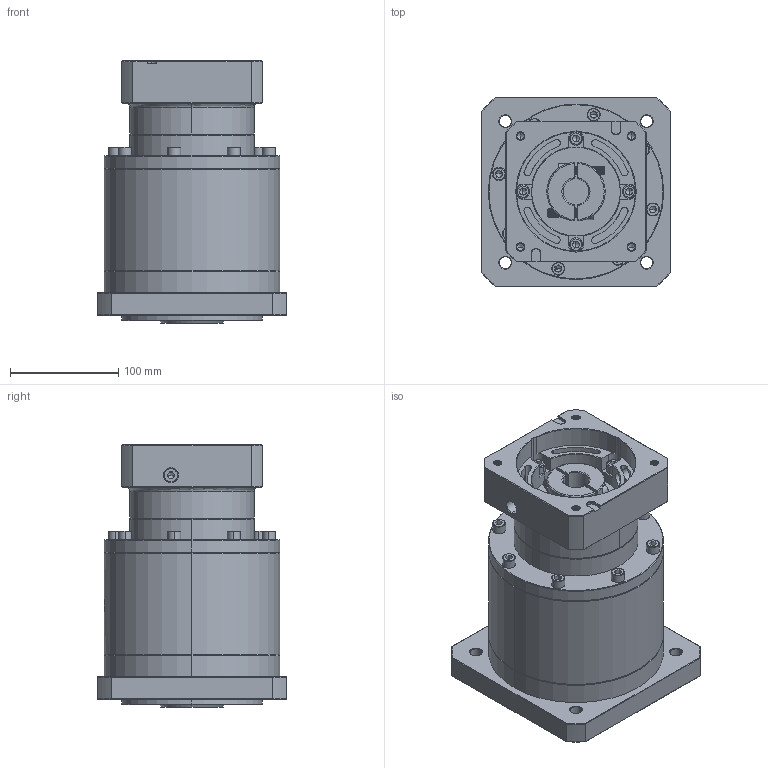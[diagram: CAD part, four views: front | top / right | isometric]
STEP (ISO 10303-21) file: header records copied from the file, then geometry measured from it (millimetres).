
FILE_DESCRIPTION (( 'STEP AP214' ), '1' );
FILE_NAME ('ZF160A-K35-L3-P2-24-110-145-M8.step', '2023-09-03T07:59:53', ( '' ), ( '' ), 'SwSTEP 2.0', 'SolidWorks 2016', '' );
FILE_SCHEMA (( 'AUTOMOTIVE_DESIGN' ));
Length unit declared in the file: millimetre
Products named in the file (1): ZF160A-K35-L3-P2-24-110-145-M8
Bounding box: 175 x 175 x 242.2 mm (x, y, z)
Volume: 4044427.9 mm3; surface area: 291708.8 mm2
Topology: 6 solids, 6 shells, 2426 faces, 6418 edges, 4112 vertices
Faces by surface type: plane 1138, cylinder 477, bspline 400, cone 355, torus 56
Entity records: 128555 total; most frequent: CARTESIAN_POINT 46797, ORIENTED_EDGE 12732, DIRECTION 9741, EDGE_CURVE 6366, VERTEX_POINT 4112, VECTOR 3397, LINE 3397, AXIS2_PLACEMENT_3D 3172
